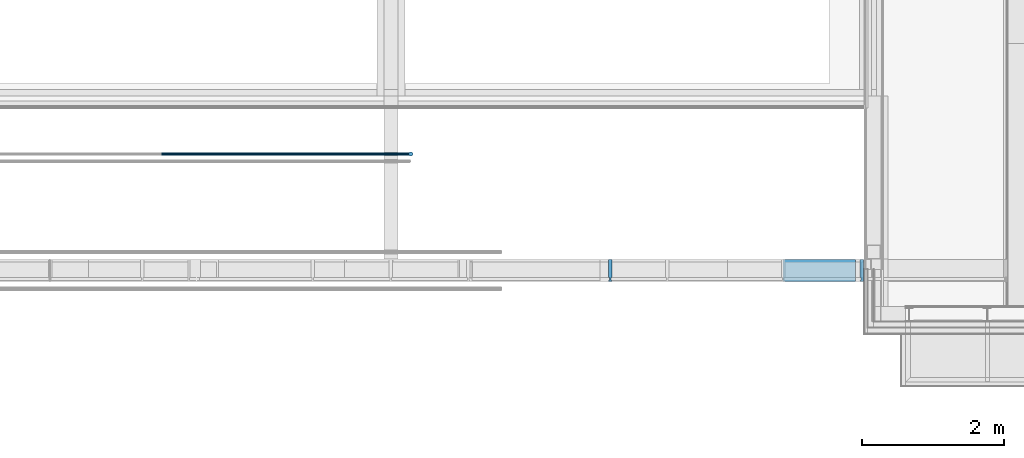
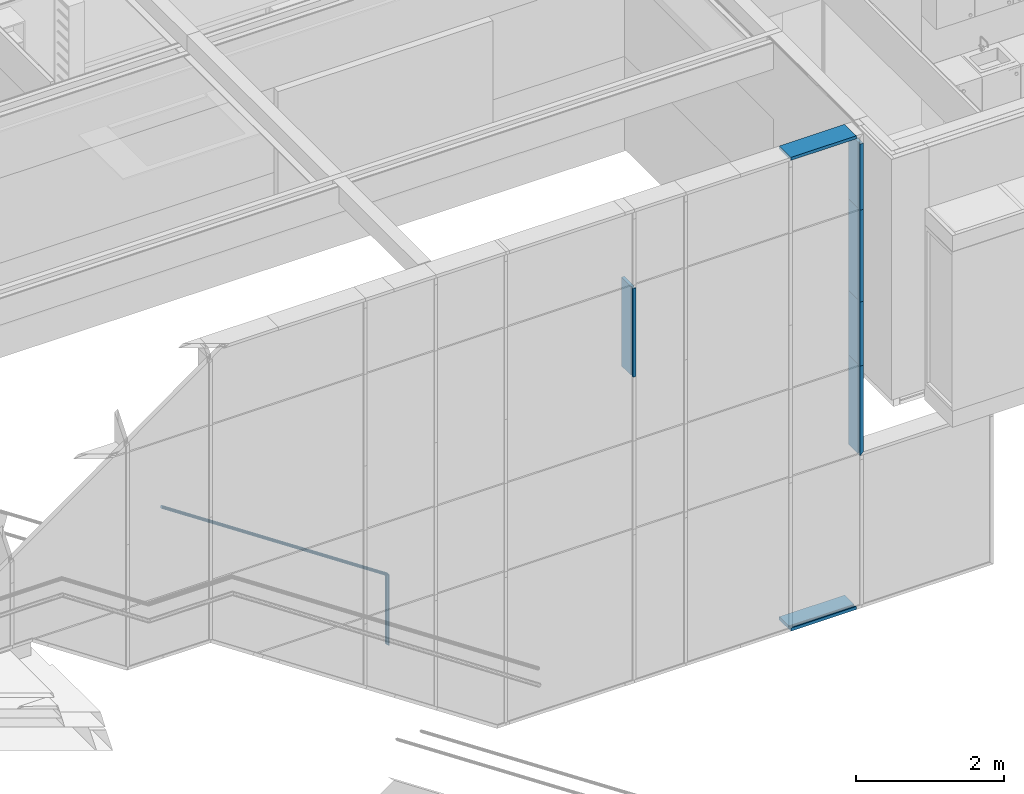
# One storey, part 19 of 137: 9 members, 2 elements without a shape of their own.
"""IFC2X3 building model written with IfcOpenShell, lengths in millimetres."""

from ifc_helpers import new_model, entity, si_unit, converted_unit, derived_unit, money_unit, direction, frame, origin_with_axes, place, context, subcontext, project, spatial, faceted_brep, material, type_object, element, aggregate, save


model = new_model("IFC2X3")

# Units and contexts
model_context = context("Model", 3, precision=0.01, world=origin_with_axes(), true_north=direction((0.0, 1.0)))
body_context = subcontext(model_context, "Body", "Model", "MODEL_VIEW")
ifc_project = project(units=[si_unit("LENGTHUNIT", "METRE", prefix="MILLI"), si_unit("AREAUNIT", "SQUARE_METRE"), si_unit("VOLUMEUNIT", "CUBIC_METRE"), converted_unit("PLANEANGLEUNIT", "DEGREE", entity("IfcPlaneAngleMeasure", 0.0174532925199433), si_unit("PLANEANGLEUNIT", "RADIAN"), dimensions=[0, 0, 0, 0, 0, 0, 0]), money_unit("EUR"), converted_unit("TIMEUNIT", "Year", entity("IfcTimeMeasure", 31556926.0), si_unit("TIMEUNIT", "SECOND"), dimensions=[0, 0, 1, 0, 0, 0, 0]), si_unit("MASSUNIT", "GRAM", prefix="KILO"), si_unit("THERMODYNAMICTEMPERATUREUNIT", "DEGREE_CELSIUS"), si_unit("LUMINOUSINTENSITYUNIT", "LUMEN"), si_unit("ENERGYUNIT", "JOULE", prefix="MEGA"), derived_unit("THERMALCONDUCTANCEUNIT", [(si_unit("POWERUNIT", "WATT"), 1), (si_unit("LENGTHUNIT", "METRE"), -1), (si_unit("THERMODYNAMICTEMPERATUREUNIT", "KELVIN"), -1)]), derived_unit("SPECIFICHEATCAPACITYUNIT", [(si_unit("ENERGYUNIT", "JOULE"), 1), (si_unit("MASSUNIT", "GRAM", prefix="KILO"), -1), (si_unit("THERMODYNAMICTEMPERATUREUNIT", "KELVIN"), -1)]), derived_unit("MASSDENSITYUNIT", [(si_unit("MASSUNIT", "GRAM", prefix="KILO"), 1), (si_unit("VOLUMEUNIT", "CUBIC_METRE"), -1)])], contexts=[model_context])

# Site, building, storey
site_placement = place(None, origin_with_axes())
site = spatial("IfcSite", under=ifc_project, at=site_placement, Name="Site", CompositionType="ELEMENT")
building_placement = place(site_placement, origin_with_axes())
building = spatial("IfcBuilding", under=site, at=building_placement, Name="Naam gebouw", CompositionType="ELEMENT")
storey_placement = place(building_placement, frame((0.0, 0.0, 3960.0), z_axis=(0.0, 0.0, 1.0), x_axis=(1.0, 0.0, 0.0)))
storey = spatial("IfcBuildingStorey", under=building, at=storey_placement, Name="1e verdieping", CompositionType="ELEMENT", Elevation=3960.0)

# Railing, members
railing_type = type_object("IfcRailingType", Name="Railing Type", PredefinedType="NOTDEFINED")
railing_placement = place(storey_placement, frame((18520.00002097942, 5850.000227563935, -3240.0), z_axis=(0.0, 0.0, 1.0), x_axis=(1.0, 0.0, 0.0)))
railing = element("IfcRailing", 1, at=railing_placement, inside=storey, type_object=railing_type, Name="34_Reling-x", PredefinedType="NOTDEFINED")
ifc_material_1 = material(Name="Metaal - RVS")
member_type_1 = type_object("IfcMemberType", Name="IfcMember", PredefinedType="USERDEFINED")
member_1_placement = place(railing_placement, frame((-2295.000001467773, 109.9998832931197, 945.9989583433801), z_axis=(0.0, 0.0, 1.0), x_axis=(1.0, 0.0, 0.0)))
member_1 = element("IfcMember", 2, at=member_1_placement, type_object=member_type_1, material=ifc_material_1, Name="h3 Staal legeringen_", context=body_context, shape_type="Brep", body=[
    faceted_brep([(1741.603991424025, -24.14990937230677, 33.90702704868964), (1743.930184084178, -23.78301648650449, 37.39631606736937), (-1761.042316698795, -23.78319700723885, 2374.044645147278), (-1762.312037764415, -24.15008944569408, 2369.851041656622), (1739.277798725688, -23.78301672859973, 30.41773803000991), (1737.022286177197, -22.69348640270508, 27.03446929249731), (1734.905986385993, -20.91442322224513, 23.86001974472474), (1732.993202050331, -18.49988312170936, 20.99084342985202), (1731.342052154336, -15.52323068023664, 18.51411881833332), (1730.002706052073, -12.07490997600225, 16.50509993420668), (1729.015859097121, -8.2596964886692, 15.02482979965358), (1728.411496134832, -4.193513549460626, 14.11828567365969), (1728.207980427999, 8.993060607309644e-05, 13.81301244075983), (1728.411495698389, 4.193693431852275, 14.11828567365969), (1729.015858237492, 8.259876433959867, 15.02482979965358), (1730.002704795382, 12.07509002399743, 16.50509993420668), (1731.342050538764, 15.52341086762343, 18.51411881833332), (1732.993200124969, 18.50006348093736, 20.99084342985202), (1734.905984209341, 20.91460378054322, 23.86001974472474), (1737.022283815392, 22.69366718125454, 27.03446929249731), (1739.277796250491, 23.78319774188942, 30.41773803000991), (1741.60398891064, 24.15009062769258, 33.90702704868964), (1743.930181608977, 23.78319798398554, 37.39631606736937), (1746.185694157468, 22.69366765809, 40.77958480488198), (1748.301993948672, 20.91460447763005, 43.95403435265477), (1750.214778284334, 18.50006437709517, 46.8232106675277), (1751.86592818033, 15.52341193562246, 49.2999352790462), (1753.205274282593, 12.07509123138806, 51.30895416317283), (1754.192121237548, 8.25987774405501, 52.78922429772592), (1754.796484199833, 4.193694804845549, 53.69576842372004), (1754.999999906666, 9.132477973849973e-05, 54.0010416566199), (1754.796484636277, -4.193512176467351, 53.69576842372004), (1754.192122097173, -8.259695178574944, 52.78922429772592), (1753.205275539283, -12.0749087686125, 51.30895416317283), (1751.865929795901, -15.52322961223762, 49.2999352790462), (1750.214780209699, -18.49988222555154, 46.8232106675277), (1748.301996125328, -20.91442252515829, 43.95403435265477), (1746.185696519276, -22.69348592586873, 40.77958480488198), (-1759.811175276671, -22.69366688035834, 2378.110828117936), (-1758.656021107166, -20.9146038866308, 2381.926041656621), (-1757.611952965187, -18.50006395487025, 2385.374362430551), (-1756.710694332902, -15.52341165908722, 2388.351014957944), (-1755.979629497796, -12.07509107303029, 2390.765555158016), (-1755.440971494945, -8.259877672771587, 2392.5446184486), (-1755.111087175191, -4.193694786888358, 2393.634148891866), (-1754.999999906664, -9.132477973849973e-05, 2394.001041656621), (-1755.111085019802, 4.193512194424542, 2393.634148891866), (-1755.440967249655, 8.25969524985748, 2392.5446184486), (-1755.979623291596, 12.07490892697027, 2390.765555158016), (-1756.710686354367, 15.52322988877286, 2388.351014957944), (-1757.611943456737, 18.49988264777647, 2385.374362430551), (-1758.656010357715, 20.91442311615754, 2381.926041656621), (-1759.811163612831, 22.69348670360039, 2378.110828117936), (-1761.04230447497, 23.78301746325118, 2374.044645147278), (-1762.312025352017, 24.14991055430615, 2369.851041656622), (-1763.581746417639, 23.78301811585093, 2365.657438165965), (-1764.812887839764, 22.69348798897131, 2361.591255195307), (-1765.968042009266, 20.91442499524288, 2357.776041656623), (-1767.012110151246, 18.49988506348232, 2354.327720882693), (-1767.913368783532, 15.52323276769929, 2351.3510683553), (-1768.644433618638, 12.07491218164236, 2348.936528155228), (-1769.183091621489, 8.25969878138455, 2347.157464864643), (-1769.512975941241, 4.193515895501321, 2346.067934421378), (-1769.624063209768, -8.75666081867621e-05, 2345.701041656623), (-1769.512978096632, -4.193691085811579, 2346.067934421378), (-1769.183095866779, -8.259874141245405, 2347.157464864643), (-1768.644439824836, -12.07508781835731, 2348.936528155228), (-1767.913376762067, -15.52340878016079, 2351.3510683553), (-1767.012119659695, -18.50006153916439, 2354.327720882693), (-1765.968052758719, -20.91460200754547, 2357.776041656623), (-1764.812899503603, -22.69366559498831, 2361.591255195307), (-1763.581758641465, -23.7831963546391, 2365.657438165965)], [[[0, 1, 2, 3]], [[0, 4, 5, 6, 7, 8, 9, 10, 11, 12, 13, 14, 15, 16, 17, 18, 19, 20, 21, 22, 23, 24, 25, 26, 27, 28, 29, 30, 31, 32, 33, 34, 35, 36, 37, 1]], [[1, 37, 38, 2]], [[3, 2, 38, 39, 40, 41, 42, 43, 44, 45, 46, 47, 48, 49, 50, 51, 52, 53, 54, 55, 56, 57, 58, 59, 60, 61, 62, 63, 64, 65, 66, 67, 68, 69, 70, 71]], [[4, 0, 3, 71]], [[5, 4, 71, 70]], [[6, 5, 70, 69]], [[7, 6, 69, 68]], [[8, 7, 68, 67]], [[9, 8, 67, 66]], [[10, 9, 66, 65]], [[11, 10, 65, 64]], [[12, 11, 64, 63]], [[13, 12, 63, 62]], [[14, 13, 62, 61]], [[15, 14, 61, 60]], [[16, 15, 60, 59]], [[17, 16, 59, 58]], [[18, 17, 58, 57]], [[19, 18, 57, 56]], [[20, 19, 56, 55]], [[21, 20, 55, 54]], [[22, 21, 54, 53]], [[23, 22, 53, 52]], [[24, 23, 52, 51]], [[25, 24, 51, 50]], [[26, 25, 50, 49]], [[27, 26, 49, 48]], [[28, 27, 48, 47]], [[29, 28, 47, 46]], [[30, 29, 46, 45]], [[31, 30, 45, 44]], [[32, 31, 44, 43]], [[33, 32, 43, 42]], [[34, 33, 42, 41]], [[35, 34, 41, 40]], [[36, 35, 40, 39]], [[37, 36, 39, 38]]]),
])
ifc_material_2 = material(Name="Hout AFW")
member_type_2 = type_object("IfcMemberType", Name="IfcMember", PredefinedType="POST")
member_2_placement = place(railing_placement, frame((-540.0000015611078, 109.9999746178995, -179.9999999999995), z_axis=(0.0, 0.0, 1.0), x_axis=(1.0, 0.0, 0.0)))
member_2 = element("IfcMember", 3, at=member_2_placement, type_object=member_type_2, material=ifc_material_2, Name="i HOUT_", ObjectType="POST", context=body_context, shape_type="Brep", body=[
    faceted_brep([(30.00000000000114, 1.561107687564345e-06, -20.00000000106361), (29.5442323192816, 5.209446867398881, -19.69615506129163), (29.5442323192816, 5.209446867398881, 1140.303844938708), (30.00000000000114, 1.561107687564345e-06, 1139.999999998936), (29.54423286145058, -5.209443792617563, -19.69615506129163), (28.19077915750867, -10.26060283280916, -18.79385241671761), (25.98076289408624, -14.99999864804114, -17.3205080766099), (22.98133429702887, -19.28362709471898, -15.32088886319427), (19.28362948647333, -22.9813322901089, -12.85575219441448), (15.00000135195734, -25.98076133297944, -10.00000000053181), (10.2606057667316, -28.19077808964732, -6.840402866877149), (5.209446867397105, -29.54423231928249, -3.472963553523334), (1.561108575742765e-06, -30.00000000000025, 0.0), (-5.209443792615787, -29.54423286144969, 3.472963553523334), (-10.26060283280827, -28.19077915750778, 6.840402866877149), (-14.99999864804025, -25.98076289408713, 10.00000000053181), (-19.28362709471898, -22.98133429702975, 12.85575219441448), (-22.98133229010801, -19.28362948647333, 15.32088886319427), (-25.98076133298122, -15.00000135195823, 17.3205080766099), (-28.19077808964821, -10.26060576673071, 18.79385241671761), (-29.5442323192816, -5.209446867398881, 19.69615506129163), (-30.00000000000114, -1.561107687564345e-06, 20.00000000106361), (-29.54423286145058, 5.209443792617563, 19.69615506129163), (-28.19077915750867, 10.26060283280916, 18.79385241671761), (-25.98076289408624, 14.99999864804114, 17.3205080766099), (-22.98133429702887, 19.28362709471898, 15.32088886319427), (-19.28362948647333, 22.9813322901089, 12.85575219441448), (-15.00000135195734, 25.98076133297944, 10.00000000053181), (-10.2606057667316, 28.19077808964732, 6.840402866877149), (-5.209446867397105, 29.54423231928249, 3.472963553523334), (-1.561108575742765e-06, 30.00000000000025, 0.0), (5.209443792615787, 29.54423286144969, -3.472963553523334), (10.26060283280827, 28.19077915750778, -6.840402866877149), (14.99999864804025, 25.98076289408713, -10.00000000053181), (19.28362709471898, 22.98133429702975, -12.85575219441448), (22.98133229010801, 19.28362948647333, -15.32088886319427), (25.98076133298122, 15.00000135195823, -17.3205080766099), (28.19077808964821, 10.26060576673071, -18.79385241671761), (28.19077808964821, 10.26060576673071, 1141.206147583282), (25.98076133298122, 15.00000135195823, 1142.67949192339), (22.98133229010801, 19.28362948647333, 1144.679111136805), (19.28362709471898, 22.98133429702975, 1147.144247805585), (14.99999864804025, 25.98076289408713, 1149.999999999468), (10.26060283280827, 28.1907791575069, 1153.159597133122), (5.209443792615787, 29.54423286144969, 1156.527036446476), (-1.561108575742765e-06, 30.00000000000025, 1160.0), (-5.209446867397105, 29.54423231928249, 1163.472963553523), (-10.2606057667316, 28.19077808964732, 1166.840402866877), (-15.00000135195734, 25.98076133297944, 1170.000000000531), (-19.28362948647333, 22.9813322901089, 1172.855752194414), (-22.98133429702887, 19.28362709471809, 1175.320888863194), (-25.98076289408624, 14.99999864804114, 1177.320508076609), (-28.19077915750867, 10.26060283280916, 1178.793852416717), (-29.54423286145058, 5.209443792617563, 1179.696155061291), (-30.00000000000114, -1.561107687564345e-06, 1180.000000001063), (-29.5442323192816, -5.209446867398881, 1179.696155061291), (-28.19077808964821, -10.2606057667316, 1178.793852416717), (-25.98076133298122, -15.00000135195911, 1177.320508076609), (-22.98133229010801, -19.28362948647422, 1175.320888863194), (-19.28362709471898, -22.98133429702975, 1172.855752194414), (-14.99999864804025, -25.98076289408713, 1170.000000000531), (-10.26060283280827, -28.19077915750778, 1166.840402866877), (-5.209443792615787, -29.54423286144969, 1163.472963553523), (1.561108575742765e-06, -30.00000000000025, 1160.0), (5.209446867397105, -29.54423231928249, 1156.527036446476), (10.2606057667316, -28.19077808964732, 1153.159597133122), (15.00000135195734, -25.98076133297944, 1149.999999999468), (19.28362948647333, -22.9813322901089, 1147.144247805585), (22.98133429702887, -19.28362709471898, 1144.679111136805), (25.98076289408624, -14.99999864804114, 1142.67949192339), (28.19077915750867, -10.26060283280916, 1141.206147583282), (29.54423286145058, -5.209443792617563, 1140.303844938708)], [[[0, 1, 2, 3]], [[0, 4, 5, 6, 7, 8, 9, 10, 11, 12, 13, 14, 15, 16, 17, 18, 19, 20, 21, 22, 23, 24, 25, 26, 27, 28, 29, 30, 31, 32, 33, 34, 35, 36, 37, 1]], [[1, 37, 38, 2]], [[3, 2, 38, 39, 40, 41, 42, 43, 44, 45, 46, 47, 48, 49, 50, 51, 52, 53, 54, 55, 56, 57, 58, 59, 60, 61, 62, 63, 64, 65, 66, 67, 68, 69, 70, 71]], [[4, 0, 3, 71]], [[5, 4, 71, 70]], [[6, 5, 70, 69]], [[7, 6, 69, 68]], [[8, 7, 68, 67]], [[9, 8, 67, 66]], [[10, 9, 66, 65]], [[11, 10, 65, 64]], [[12, 11, 64, 63]], [[13, 12, 63, 62]], [[14, 13, 62, 61]], [[15, 14, 61, 60]], [[16, 15, 60, 59]], [[17, 16, 59, 58]], [[18, 17, 58, 57]], [[19, 18, 57, 56]], [[20, 19, 56, 55]], [[21, 20, 55, 54]], [[22, 21, 54, 53]], [[23, 22, 53, 52]], [[24, 23, 52, 51]], [[25, 24, 51, 50]], [[26, 25, 50, 49]], [[27, 26, 49, 48]], [[28, 27, 48, 47]], [[29, 28, 47, 46]], [[30, 29, 46, 45]], [[31, 30, 45, 44]], [[32, 31, 44, 43]], [[33, 32, 43, 42]], [[34, 33, 42, 41]], [[35, 34, 41, 40]], [[36, 35, 40, 39]], [[37, 36, 39, 38]]]),
])
aggregate(railing, [member_2, member_1])

# Curtain wall, members
curtain_wall_type = type_object("IfcCurtainWallType", Name="Curtain Wall Type", PredefinedType="NOTDEFINED")
curtain_wall_placement = place(storey_placement, frame((8473.014787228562, 4364.43626274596, -3949.999921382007), z_axis=(0.0, 0.0, 1.0), x_axis=(1.0, 0.0, 0.0)))
curtain_wall = element("IfcCurtainWall", 4, at=curtain_wall_placement, inside=storey, type_object=curtain_wall_type, Name="21_Vliesgevel-x")
ifc_material_3 = material(Name="Metaal - Staal AFW")
member_type_3 = type_object("IfcMemberType", Name="Boundary Frame 50 x 313", PredefinedType="MULLION")
member_3_placement = place(curtain_wall_placement, frame((14749.9217513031, -161.4362627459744, 3.861439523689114e-05), z_axis=(1.0, 0.0, 0.0), x_axis=(0.0, 0.0, 1.0)))
member_3 = element("IfcMember", 5, at=member_3_placement, type_object=member_type_3, material=ifc_material_3, Name="h METAAL_Kader-x", ObjectType="MULLION", context=body_context, shape_type="Brep", body=[
    faceted_brep([(35.0, -17.4000000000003, 0.0), (35.0, 20.99999999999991, 0.0), (35.0, 20.99999999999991, 1020.019894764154), (35.0, -17.4000000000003, 1020.019894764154), (15.0, -17.4000000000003, 0.0), (15.0, 20.99999999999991, 0.0), (15.0, 20.99999999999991, 1020.019894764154), (15.0, -17.4000000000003, 1020.019894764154)], [[[0, 1, 2, 3]], [[0, 4, 5, 1]], [[1, 5, 6, 2]], [[3, 2, 6, 7]], [[4, 0, 3, 7]], [[5, 4, 7, 6]]]),
    faceted_brep([(15.0, -20.99999999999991, 0.0), (15.0, 20.99999999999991, 0.0), (15.0, 20.99999999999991, 1020.019894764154), (15.0, -20.99999999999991, 1020.019894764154), (0.0, -20.99999999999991, 0.0), (0.0, 20.99999999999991, 0.0), (0.0, 20.99999999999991, 1020.019894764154), (0.0, -20.99999999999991, 1020.019894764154)], [[[0, 1, 2, 3]], [[0, 4, 5, 1]], [[1, 5, 6, 2]], [[3, 2, 6, 7]], [[4, 0, 3, 7]], [[5, 4, 7, 6]]]),
    faceted_brep([(49.99999999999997, -272.0000000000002, 0.0), (50.0, -17.4000000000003, 0.0), (50.0, -17.4000000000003, 1020.019894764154), (49.99999999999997, -272.0000000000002, 1020.019894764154), (0.0, -272.0000000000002, 0.0), (0.0, -17.4000000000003, 0.0), (0.0, -17.4000000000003, 1020.019894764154), (0.0, -272.0000000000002, 1020.019894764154)], [[[0, 1, 2, 3]], [[0, 4, 5, 1]], [[1, 5, 6, 2]], [[3, 2, 6, 7]], [[4, 0, 3, 7]], [[5, 4, 7, 6]]]),
    faceted_brep([(0.0, 41.00000000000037, 0.0), (0.0, 20.99999999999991, 0.0), (0.0, 20.99999999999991, 1020.019894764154), (0.0, 41.00000000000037, 1020.019894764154), (50.00000000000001, 41.00000000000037, 0.0), (50.0, 20.99999999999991, 0.0), (50.0, 20.99999999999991, 1020.019894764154), (50.00000000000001, 41.00000000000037, 1020.019894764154)], [[[0, 1, 2, 3]], [[0, 4, 5, 1]], [[1, 5, 6, 2]], [[3, 2, 6, 7]], [[4, 0, 3, 7]], [[5, 4, 7, 6]]]),
])
member_4_placement = place(curtain_wall_placement, frame((14749.92174744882, -161.4362627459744, 7800.000020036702), z_axis=(1.0, 0.0, 0.0), x_axis=(0.0, 0.0, 1.0)))
member_4 = element("IfcMember", 6, at=member_4_placement, type_object=member_type_3, material=ifc_material_3, Name="h METAAL_Kader-x", ObjectType="MULLION", context=body_context, shape_type="Brep", body=[
    faceted_brep([(-35.00000000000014, -17.4000000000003, 0.0), (-35.00000000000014, -17.4000000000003, 1020.019898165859), (-35.00000000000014, 20.99999999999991, 1020.019898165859), (-35.00000000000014, 20.99999999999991, 0.0), (-14.99999999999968, -17.4000000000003, 0.0), (-14.99999999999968, -17.4000000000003, 1020.019898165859), (-14.99999999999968, 20.99999999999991, 1020.019898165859), (-14.99999999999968, 20.99999999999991, 0.0)], [[[0, 1, 2, 3]], [[4, 5, 1, 0]], [[1, 5, 6, 2]], [[3, 2, 6, 7]], [[0, 3, 7, 4]], [[7, 6, 5, 4]]]),
    faceted_brep([(-14.99999999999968, -20.99999999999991, 0.0), (-14.99999999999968, -20.99999999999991, 1020.019898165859), (-14.99999999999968, 20.99999999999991, 1020.019898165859), (-14.99999999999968, 20.99999999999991, 0.0), (0.0, -20.99999999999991, 0.0), (0.0, -20.99999999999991, 1020.019898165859), (0.0, 20.99999999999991, 1020.019898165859), (0.0, 20.99999999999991, 0.0)], [[[0, 1, 2, 3]], [[4, 5, 1, 0]], [[1, 5, 6, 2]], [[3, 2, 6, 7]], [[0, 3, 7, 4]], [[7, 6, 5, 4]]]),
    faceted_brep([(-49.99999999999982, -272.0000000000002, 0.0), (-49.99999999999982, -272.0000000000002, 1020.019898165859), (-49.99999999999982, -17.4000000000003, 1020.019898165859), (-49.99999999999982, -17.4000000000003, 0.0), (0.0, -272.0000000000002, 0.0), (0.0, -272.0000000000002, 1020.019898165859), (0.0, -17.4000000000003, 1020.019898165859), (0.0, -17.4000000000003, 0.0)], [[[0, 1, 2, 3]], [[4, 5, 1, 0]], [[1, 5, 6, 2]], [[3, 2, 6, 7]], [[0, 3, 7, 4]], [[7, 6, 5, 4]]]),
    faceted_brep([(0.0, 41.00000000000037, 0.0), (0.0, 41.00000000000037, 1020.019898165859), (0.0, 20.99999999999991, 1020.019898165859), (0.0, 20.99999999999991, 0.0), (-49.99999999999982, 41.00000000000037, 0.0), (-49.99999999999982, 41.00000000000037, 1020.019898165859), (-49.99999999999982, 20.99999999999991, 1020.019898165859), (-49.99999999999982, 20.99999999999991, 0.0)], [[[0, 1, 2, 3]], [[4, 5, 1, 0]], [[1, 5, 6, 2]], [[3, 2, 6, 7]], [[0, 3, 7, 4]], [[7, 6, 5, 4]]]),
])
member_5_placement = place(curtain_wall_placement, frame((15880.98625513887, -161.4362627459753, 6549.999922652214), z_axis=(0.0, 0.0, 1.0), x_axis=(-1.0, 0.0, 0.0)))
member_5 = element("IfcMember", 7, at=member_5_placement, type_object=member_type_3, material=ifc_material_3, Name="h METAAL_Kader-x", ObjectType="MULLION", context=body_context, shape_type="Brep", body=[
    faceted_brep([(35.00000000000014, -17.4000000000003, 0.0), (35.00000000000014, 20.99999999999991, 0.0), (35.00000000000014, 20.99999999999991, 1089.999843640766), (35.00000000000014, -17.4000000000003, 1089.999843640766), (15.00000000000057, -17.4000000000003, 0.0), (15.00000000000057, 20.99999999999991, 0.0), (15.00000000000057, 20.99999999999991, 1089.999843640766), (15.00000000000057, -17.4000000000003, 1089.999843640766)], [[[0, 1, 2, 3]], [[0, 4, 5, 1]], [[1, 5, 6, 2]], [[3, 2, 6, 7]], [[4, 0, 3, 7]], [[5, 4, 7, 6]]]),
    faceted_brep([(15.00000000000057, -20.99999999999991, 0.0), (15.00000000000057, 20.99999999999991, 0.0), (15.00000000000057, 20.99999999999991, 1089.999843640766), (15.00000000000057, -20.99999999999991, 1089.999843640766), (0.0, -20.99999999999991, 0.0), (0.0, 20.99999999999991, 0.0), (0.0, 20.99999999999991, 1089.999843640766), (0.0, -20.99999999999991, 1089.999843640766)], [[[0, 1, 2, 3]], [[0, 4, 5, 1]], [[1, 5, 6, 2]], [[3, 2, 6, 7]], [[4, 0, 3, 7]], [[5, 4, 7, 6]]]),
    faceted_brep([(50.00000000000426, -272.0000000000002, 0.0), (50.00000000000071, -17.4000000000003, 0.0), (50.00000000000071, -17.4000000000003, 1089.999843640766), (50.00000000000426, -272.0000000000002, 1089.999843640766), (0.0, -272.0000000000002, 0.0), (0.0, -17.4000000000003, 0.0), (0.0, -17.4000000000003, 1089.999843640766), (0.0, -272.0000000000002, 1089.999843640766)], [[[0, 1, 2, 3]], [[0, 4, 5, 1]], [[1, 5, 6, 2]], [[3, 2, 6, 7]], [[4, 0, 3, 7]], [[5, 4, 7, 6]]]),
    faceted_brep([(0.0, 41.00000000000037, 0.0), (0.0, 20.99999999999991, 0.0), (0.0, 20.99999999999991, 1089.999843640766), (0.0, 41.00000000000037, 1089.999843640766), (50.00000000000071, 41.00000000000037, 0.0), (50.00000000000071, 20.99999999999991, 0.0), (50.00000000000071, 20.99999999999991, 1089.999843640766), (50.00000000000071, 41.00000000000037, 1089.999843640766)], [[[0, 1, 2, 3]], [[0, 4, 5, 1]], [[1, 5, 6, 2]], [[3, 2, 6, 7]], [[4, 0, 3, 7]], [[5, 4, 7, 6]]]),
])
member_6_placement = place(curtain_wall_placement, frame((15880.98625513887, -161.4362627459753, 3984.999911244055), z_axis=(0.0, 0.0, 1.0), x_axis=(-1.0, 0.0, 0.0)))
member_6 = element("IfcMember", 8, at=member_6_placement, type_object=member_type_3, material=ifc_material_3, Name="h METAAL_Kader-x", ObjectType="MULLION", context=body_context, shape_type="Brep", body=[
    faceted_brep([(35.00000000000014, -17.4000000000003, 0.0), (35.00000000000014, 20.99999999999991, 0.0), (35.00000000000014, 20.99999999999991, 1054.999855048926), (35.00000000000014, -17.4000000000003, 1054.999855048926), (15.00000000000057, -17.4000000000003, 0.0), (15.00000000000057, 20.99999999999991, 0.0), (15.00000000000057, 20.99999999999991, 1054.999855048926), (15.00000000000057, -17.4000000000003, 1054.999855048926)], [[[0, 1, 2, 3]], [[0, 4, 5, 1]], [[1, 5, 6, 2]], [[3, 2, 6, 7]], [[4, 0, 3, 7]], [[5, 4, 7, 6]]]),
    faceted_brep([(15.00000000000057, -20.99999999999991, 0.0), (15.00000000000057, 20.99999999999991, 0.0), (15.00000000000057, 20.99999999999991, 1054.999855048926), (15.00000000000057, -20.99999999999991, 1054.999855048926), (0.0, -20.99999999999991, 0.0), (0.0, 20.99999999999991, 0.0), (0.0, 20.99999999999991, 1054.999855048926), (0.0, -20.99999999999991, 1054.999855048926)], [[[0, 1, 2, 3]], [[0, 4, 5, 1]], [[1, 5, 6, 2]], [[3, 2, 6, 7]], [[4, 0, 3, 7]], [[5, 4, 7, 6]]]),
    faceted_brep([(50.00000000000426, -272.0000000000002, 0.0), (50.00000000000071, -17.4000000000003, 0.0), (50.00000000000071, -17.4000000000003, 1054.999855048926), (50.00000000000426, -272.0000000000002, 1054.999855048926), (0.0, -272.0000000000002, 0.0), (0.0, -17.4000000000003, 0.0), (0.0, -17.4000000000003, 1054.999855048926), (0.0, -272.0000000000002, 1054.999855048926)], [[[0, 1, 2, 3]], [[0, 4, 5, 1]], [[1, 5, 6, 2]], [[3, 2, 6, 7]], [[4, 0, 3, 7]], [[5, 4, 7, 6]]]),
    faceted_brep([(0.0, 41.00000000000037, 0.0), (0.0, 20.99999999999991, 0.0), (0.0, 20.99999999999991, 1054.999855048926), (0.0, 41.00000000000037, 1054.999855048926), (50.00000000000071, 41.00000000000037, 0.0), (50.00000000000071, 20.99999999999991, 0.0), (50.00000000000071, 20.99999999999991, 1054.999855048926), (50.00000000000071, 41.00000000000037, 1054.999855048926)], [[[0, 1, 2, 3]], [[0, 4, 5, 1]], [[1, 5, 6, 2]], [[3, 2, 6, 7]], [[4, 0, 3, 7]], [[5, 4, 7, 6]]]),
])
member_7_placement = place(curtain_wall_placement, frame((15880.98625513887, -161.4362627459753, 5039.999766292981), z_axis=(0.0, 0.0, 1.0), x_axis=(-1.0, 0.0, 0.0)))
member_7 = element("IfcMember", 9, at=member_7_placement, type_object=member_type_3, material=ifc_material_3, Name="h METAAL_Kader-x", ObjectType="MULLION", context=body_context, shape_type="Brep", body=[
    faceted_brep([(35.00000000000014, -17.4000000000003, 0.0), (35.00000000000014, 20.99999999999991, 0.0), (35.00000000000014, 20.99999999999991, 1510.000156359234), (35.00000000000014, -17.4000000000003, 1510.000156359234), (15.00000000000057, -17.4000000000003, 0.0), (15.00000000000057, 20.99999999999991, 0.0), (15.00000000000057, 20.99999999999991, 1510.000156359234), (15.00000000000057, -17.4000000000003, 1510.000156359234)], [[[0, 1, 2, 3]], [[0, 4, 5, 1]], [[1, 5, 6, 2]], [[3, 2, 6, 7]], [[4, 0, 3, 7]], [[5, 4, 7, 6]]]),
    faceted_brep([(15.00000000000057, -20.99999999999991, 0.0), (15.00000000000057, 20.99999999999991, 0.0), (15.00000000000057, 20.99999999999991, 1510.000156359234), (15.00000000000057, -20.99999999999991, 1510.000156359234), (0.0, -20.99999999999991, 0.0), (0.0, 20.99999999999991, 0.0), (0.0, 20.99999999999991, 1510.000156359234), (0.0, -20.99999999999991, 1510.000156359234)], [[[0, 1, 2, 3]], [[0, 4, 5, 1]], [[1, 5, 6, 2]], [[3, 2, 6, 7]], [[4, 0, 3, 7]], [[5, 4, 7, 6]]]),
    faceted_brep([(50.00000000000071, -272.0000000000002, 0.0), (50.00000000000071, -17.4000000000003, 0.0), (50.00000000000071, -17.4000000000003, 1510.000156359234), (50.00000000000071, -272.0000000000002, 1510.000156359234), (0.0, -272.0000000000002, 0.0), (0.0, -17.4000000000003, 0.0), (0.0, -17.4000000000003, 1510.000156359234), (0.0, -272.0000000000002, 1510.000156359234)], [[[0, 1, 2, 3]], [[0, 4, 5, 1]], [[1, 5, 6, 2]], [[3, 2, 6, 7]], [[4, 0, 3, 7]], [[5, 4, 7, 6]]]),
    faceted_brep([(0.0, 41.00000000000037, 0.0), (0.0, 20.99999999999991, 0.0), (0.0, 20.99999999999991, 1510.000156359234), (0.0, 41.00000000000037, 1510.000156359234), (50.00000000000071, 41.00000000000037, 0.0), (50.00000000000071, 20.99999999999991, 0.0), (50.00000000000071, 20.99999999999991, 1510.000156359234), (50.00000000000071, 41.00000000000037, 1510.000156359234)], [[[0, 1, 2, 3]], [[0, 4, 5, 1]], [[1, 5, 6, 2]], [[3, 2, 6, 7]], [[4, 0, 3, 7]], [[5, 4, 7, 6]]]),
])
member_8_placement = place(curtain_wall_placement, frame((15880.98625513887, -161.4362627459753, 2560.000004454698), z_axis=(0.0, 0.0, 1.0), x_axis=(-1.0, 0.0, 0.0)))
member_8 = element("IfcMember", 10, at=member_8_placement, type_object=member_type_3, material=ifc_material_3, Name="h METAAL_Kader-x", ObjectType="MULLION", context=body_context, shape_type="Brep", body=[
    faceted_brep([(35.00000000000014, 20.99999999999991, -35.00000000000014), (35.00000000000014, 20.99999999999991, 1424.999906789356), (35.00000000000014, -17.4000000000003, 1424.999906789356), (35.00000000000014, -17.4000000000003, -35.00000000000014), (15.00000000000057, 20.99999999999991, -15.00000000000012), (15.00000000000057, 20.99999999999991, 1424.999906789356), (15.00000000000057, -17.4000000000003, 1424.999906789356), (15.00000000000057, -17.4000000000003, -15.00000000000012)], [[[0, 1, 2, 3]], [[4, 5, 1, 0]], [[2, 1, 5, 6]], [[3, 2, 6, 7]], [[3, 7, 4, 0]], [[7, 6, 5, 4]]]),
    faceted_brep([(15.00000000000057, 20.99999999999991, -15.00000000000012), (15.00000000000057, 20.99999999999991, 1424.999906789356), (15.00000000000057, -20.99999999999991, 1424.999906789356), (15.00000000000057, -20.99999999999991, -15.00000000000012), (0.0, 20.99999999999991, 0.0), (0.0, 20.99999999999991, 1424.999906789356), (0.0, -20.99999999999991, 1424.999906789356), (0.0, -20.99999999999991, 0.0)], [[[0, 1, 2, 3]], [[4, 5, 1, 0]], [[2, 1, 5, 6]], [[3, 2, 6, 7]], [[3, 7, 4, 0]], [[7, 6, 5, 4]]]),
    faceted_brep([(0.0, -272.0000000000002, 1424.999906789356), (0.0, -17.4000000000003, 1424.999906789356), (0.0, -17.4000000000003, 0.0), (0.0, -272.0000000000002, 0.0), (50.00000000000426, -272.0000000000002, 1424.999906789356), (50.00000000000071, -17.4000000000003, 1424.999906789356), (50.00000000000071, -17.4000000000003, -50.00000000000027), (50.00000000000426, -272.0000000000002, -50.00000000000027)], [[[0, 1, 2, 3]], [[1, 0, 4, 5]], [[2, 1, 5, 6]], [[2, 6, 7, 3]], [[0, 3, 7, 4]], [[7, 6, 5, 4]]]),
    faceted_brep([(0.0, 20.99999999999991, 1424.999906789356), (0.0, 41.00000000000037, 1424.999906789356), (0.0, 41.00000000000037, 0.0), (0.0, 20.99999999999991, 0.0), (50.00000000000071, 20.99999999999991, 1424.999906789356), (50.00000000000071, 41.00000000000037, 1424.999906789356), (50.00000000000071, 41.00000000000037, -50.00000000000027), (50.00000000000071, 20.99999999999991, -50.00000000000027)], [[[0, 1, 2, 3]], [[1, 0, 4, 5]], [[2, 1, 5, 6]], [[3, 2, 6, 7]], [[0, 3, 7, 4]], [[7, 6, 5, 4]]]),
])
member_type_4 = type_object("IfcMemberType", Name="Mullion Frame 50 x 313", PredefinedType="MULLION")
member_9_placement = place(curtain_wall_placement, frame((12316.98041549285, -161.4362627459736, 5039.999766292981), z_axis=(0.0, 0.0, 1.0), x_axis=(-1.0, 0.0, 0.0)))
member_9 = element("IfcMember", 11, at=member_9_placement, type_object=member_type_4, material=ifc_material_3, Name="h METAAL_Kader-x", ObjectType="MULLION", context=body_context, shape_type="Brep", body=[
    faceted_brep([(10.00000000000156, -17.4000000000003, 0.0), (10.00000000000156, 20.99999999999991, 0.0), (10.00000000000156, 20.99999999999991, 1459.712824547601), (10.00000000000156, -17.4000000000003, 1459.712824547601), (-10.00000000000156, -17.4000000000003, 0.0), (-10.00000000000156, 20.99999999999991, 0.0), (-10.00000000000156, 20.99999999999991, 1459.712824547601), (-10.00000000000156, -17.4000000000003, 1459.712824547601)], [[[0, 1, 2, 3]], [[0, 4, 5, 1]], [[1, 5, 6, 2]], [[3, 2, 6, 7]], [[4, 0, 3, 7]], [[5, 4, 7, 6]]]),
    faceted_brep([(24.99999999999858, -272.0000000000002, 0.0), (24.99999999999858, -17.4000000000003, 0.0), (24.99999999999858, -17.4000000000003, 1459.712824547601), (24.99999999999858, -272.0000000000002, 1459.712824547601), (-24.99999999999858, -272.0000000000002, 0.0), (-24.99999999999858, -17.4000000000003, 0.0), (-24.99999999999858, -17.4000000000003, 1459.712824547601), (-24.99999999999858, -272.0000000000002, 1459.712824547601)], [[[0, 1, 2, 3]], [[0, 4, 5, 1]], [[1, 5, 6, 2]], [[3, 2, 6, 7]], [[4, 0, 3, 7]], [[5, 4, 7, 6]]]),
    faceted_brep([(-24.99999999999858, 40.49999999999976, 0.0), (-24.99999999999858, 20.99999999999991, 0.0), (-24.99999999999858, 20.99999999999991, 1459.712824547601), (-24.99999999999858, 40.49999999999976, 1459.712824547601), (24.99999999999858, 40.49999999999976, 0.0), (24.99999999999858, 20.99999999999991, 0.0), (24.99999999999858, 20.99999999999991, 1459.712824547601), (24.99999999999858, 40.49999999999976, 1459.712824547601)], [[[0, 1, 2, 3]], [[0, 4, 5, 1]], [[1, 5, 6, 2]], [[3, 2, 6, 7]], [[4, 0, 3, 7]], [[5, 4, 7, 6]]]),
])
aggregate(curtain_wall, [member_3, member_4, member_5, member_6, member_7, member_8, member_9])

save(model, "model.ifc")
